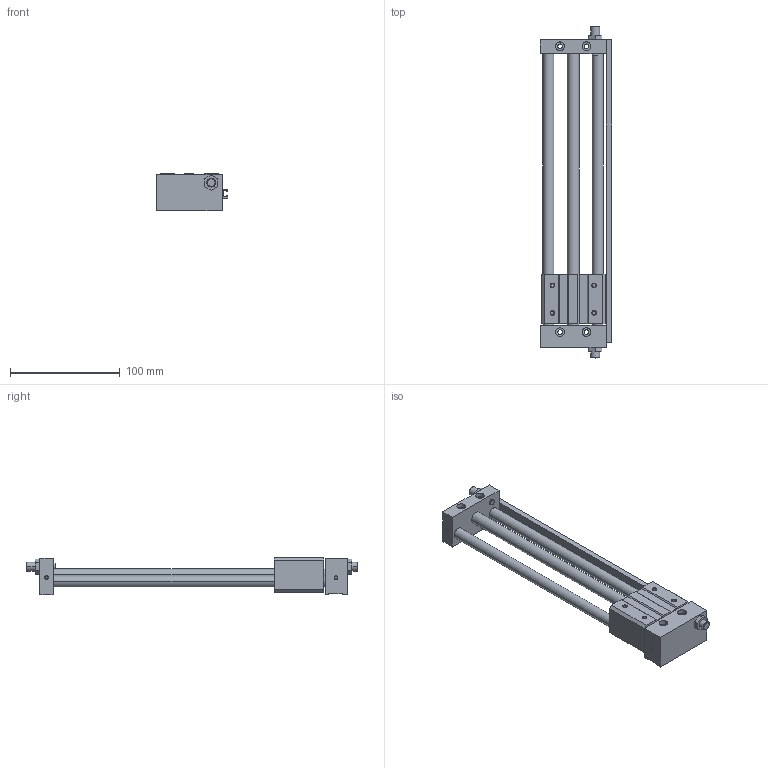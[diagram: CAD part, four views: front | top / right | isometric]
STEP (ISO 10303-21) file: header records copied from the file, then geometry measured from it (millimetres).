
FILE_DESCRIPTION((''),'2;1');
FILE_NAME('C:\Documents and Settings\Administrator\桌面\GYS\GYS10\GYSR10X200.stp','2012-03-05T10:11:06',('Administrator'),(''),'Autodesk Inventor 8','Autodesk Inventor 8','');
FILE_SCHEMA(('AUTOMOTIVE_DESIGN { 1 0 10303 214 1 1 1 1 }'));
Length unit declared in the file: millimetre
Products named in the file (3): GYSR10X200; GYS10X200; GYS10160X200
Assembly tree (2 placements, depth 2):
  GYSR10X200
    GYS10X200
    GYS10160X200
Bounding box: 65 x 302 x 34 mm (x, y, z)
Volume: 199368.8 mm3; surface area: 58354.5 mm2
Topology: 2 solids, 2 shells, 193 faces, 462 edges, 296 vertices
Faces by surface type: plane 97, cylinder 58, cone 32, bspline 6
Entity records: 5756 total; most frequent: CARTESIAN_POINT 1030, DIRECTION 1006, ORIENTED_EDGE 924, EDGE_CURVE 462, AXIS2_PLACEMENT_3D 352, VECTOR 302, LINE 302, VERTEX_POINT 296
